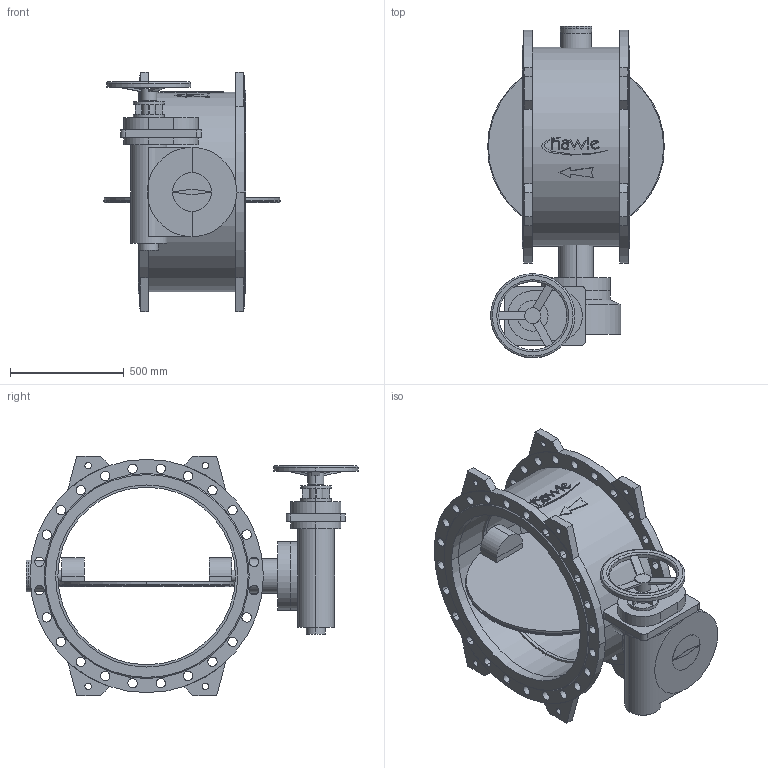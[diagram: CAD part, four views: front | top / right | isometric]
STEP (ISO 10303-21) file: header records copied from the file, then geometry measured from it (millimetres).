
FILE_DESCRIPTION(('STEP AP214'),'1');
FILE_NAME('S:/EK/USER/CAT6/3DHomepage_27-04-2012/neu_08-01-2013/9881K/9881K_PN16_DN800_7800.STP','2013-03-11T15:43:11',(' '),(' '),'Spatial InterOp 3D',' ',' ');
FILE_SCHEMA(('automotive_design'));
Length unit declared in the file: millimetre
Products named in the file (53): 3D-Objekt
Bounding box: 776 x 1458 x 1050 mm (x, y, z)
Volume: 136059254 mm3; surface area: 8588654.7 mm2
Topology: 53 solids, 53 shells, 475 faces, 1100 edges, 734 vertices
Faces by surface type: cylinder 233, plane 230, cone 8, torus 4
Entity records: 18983 total; most frequent: DIRECTION 2668, CARTESIAN_POINT 2362, ORIENTED_EDGE 2200, EDGE_CURVE 1100, AXIS2_PLACEMENT_3D 1040, VERTEX_POINT 734, EDGE_LOOP 608, LINE 588
